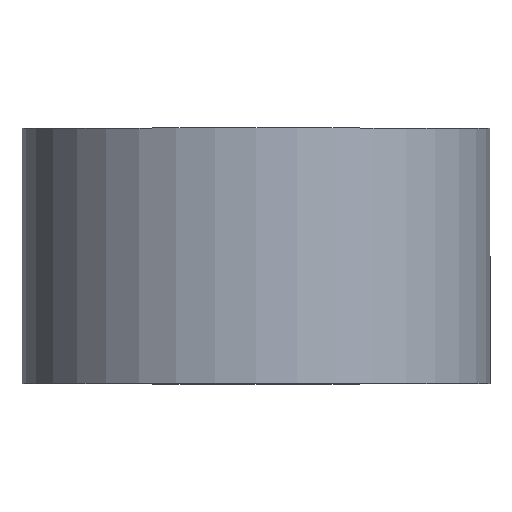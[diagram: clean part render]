
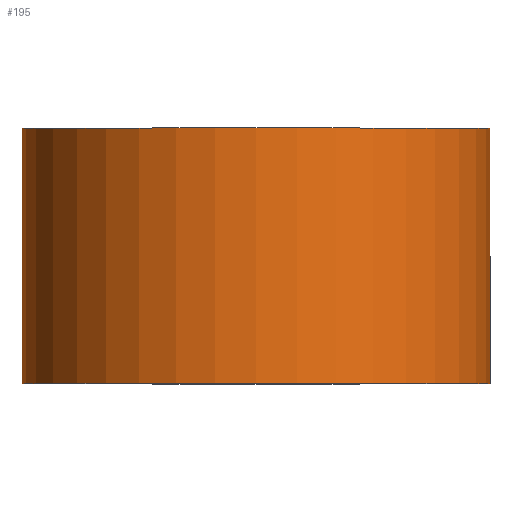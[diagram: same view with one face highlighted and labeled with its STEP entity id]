
A CAD part, top view. The second image highlights one B-rep face of the part: STEP entity #195.
In plain terms, the highlighted cylindrical face has radius 27.5 mm (diameter 55 mm), a partial arc.
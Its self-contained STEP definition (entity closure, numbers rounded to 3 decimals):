
#17 = DIRECTION ( 'NONE',  ( 0., 1., 0. ) ) ;
#24 = VERTEX_POINT ( 'NONE', #82 ) ;
#39 = ORIENTED_EDGE ( 'NONE', *, *, #55, .F. ) ;
#40 = CARTESIAN_POINT ( 'NONE',  ( 27.5, 30., 0. ) ) ;
#54 = CIRCLE ( 'NONE', #277, 27.5 ) ;
#55 = EDGE_CURVE ( 'NONE', #140, #189, #214, .T. ) ;
#81 = ORIENTED_EDGE ( 'NONE', *, *, #198, .F. ) ;
#82 = CARTESIAN_POINT ( 'NONE',  ( 27.5, 0., 0. ) ) ;
#94 = ORIENTED_EDGE ( 'NONE', *, *, #194, .T. ) ;
#96 = DIRECTION ( 'NONE',  ( 0., 1., 0. ) ) ;
#105 = DIRECTION ( 'NONE',  ( 0., 1., 0. ) ) ;
#111 = LINE ( 'NONE', #231, #281 ) ;
#125 = CARTESIAN_POINT ( 'NONE',  ( -27.5, 0., 0. ) ) ;
#129 = CARTESIAN_POINT ( 'NONE',  ( 0., 0., 0. ) ) ;
#130 = CARTESIAN_POINT ( 'NONE',  ( -27.5, 0., 0. ) ) ;
#140 = VERTEX_POINT ( 'NONE', #130 ) ;
#145 = VECTOR ( 'NONE', #96, 1000. ) ;
#160 = DIRECTION ( 'NONE',  ( -1., 0., 0. ) ) ;
#167 = CYLINDRICAL_SURFACE ( 'NONE', #187, 27.5 ) ;
#187 = AXIS2_PLACEMENT_3D ( 'NONE', #129, #234, #228 ) ;
#189 = VERTEX_POINT ( 'NONE', #298 ) ;
#194 = EDGE_CURVE ( 'NONE', #24, #241, #111, .T. ) ;
#195 = ADVANCED_FACE ( 'NONE', ( #265 ), #167, .T. ) ;
#198 = EDGE_CURVE ( 'NONE', #189, #241, #258, .T. ) ;
#205 = AXIS2_PLACEMENT_3D ( 'NONE', #254, #105, #160 ) ;
#206 = CARTESIAN_POINT ( 'NONE',  ( 0., 0., 0. ) ) ;
#211 = ORIENTED_EDGE ( 'NONE', *, *, #266, .T. ) ;
#214 = LINE ( 'NONE', #125, #145 ) ;
#228 = DIRECTION ( 'NONE',  ( -1., 0., 0. ) ) ;
#229 = EDGE_LOOP ( 'NONE', ( #211, #94, #81, #39 ) ) ;
#231 = CARTESIAN_POINT ( 'NONE',  ( 27.5, 0., 0. ) ) ;
#234 = DIRECTION ( 'NONE',  ( 0., 1., 0. ) ) ;
#241 = VERTEX_POINT ( 'NONE', #40 ) ;
#249 = DIRECTION ( 'NONE',  ( 0., 1., 0. ) ) ;
#254 = CARTESIAN_POINT ( 'NONE',  ( 0., 30., 0. ) ) ;
#258 = CIRCLE ( 'NONE', #205, 27.5 ) ;
#265 = FACE_OUTER_BOUND ( 'NONE', #229, .T. ) ;
#266 = EDGE_CURVE ( 'NONE', #140, #24, #54, .T. ) ;
#277 = AXIS2_PLACEMENT_3D ( 'NONE', #206, #249, #294 ) ;
#281 = VECTOR ( 'NONE', #17, 1000. ) ;
#294 = DIRECTION ( 'NONE',  ( -1., 0., 0. ) ) ;
#298 = CARTESIAN_POINT ( 'NONE',  ( -27.5, 30., 0. ) ) ;
